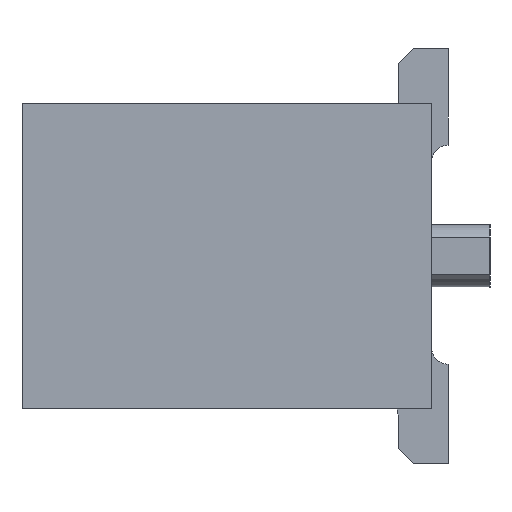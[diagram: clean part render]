
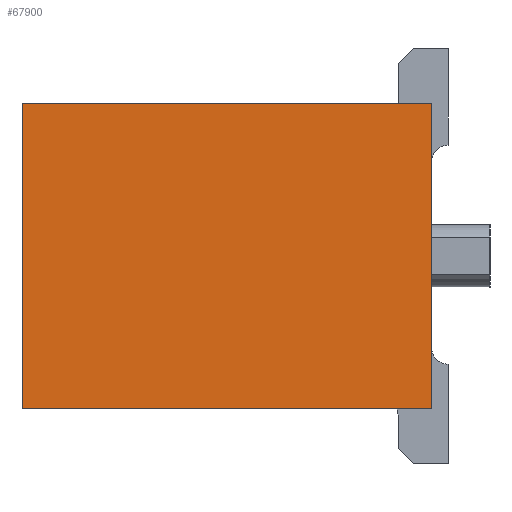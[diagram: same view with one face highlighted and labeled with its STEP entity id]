
A CAD part, left-side view. The second image highlights one B-rep face of the part: STEP entity #67900.
In plain terms, the highlighted planar face has unit normal (-1, 0, 0).
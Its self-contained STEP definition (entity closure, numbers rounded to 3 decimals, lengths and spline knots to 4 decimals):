
#1535 = EDGE_CURVE ( 'NONE', #72537, #42764, #54878, .T. ) ;
#1702 = EDGE_LOOP ( 'NONE', ( #72935, #74834, #81682, #74496 ) ) ;
#2790 = DIRECTION ( 'NONE',  ( 0., -1., 0. ) ) ;
#3168 = CARTESIAN_POINT ( 'NONE',  ( -2.0012, 2.6424, 1.825 ) ) ;
#3215 = LINE ( 'NONE', #22264, #20956 ) ;
#8322 = VECTOR ( 'NONE', #32450, 1000. ) ;
#10366 = DIRECTION ( 'NONE',  ( 1., 0., 0. ) ) ;
#20956 = VECTOR ( 'NONE', #2790, 1000. ) ;
#21665 = CARTESIAN_POINT ( 'NONE',  ( -2.0012, -2.2576, 1.825 ) ) ;
#21693 = CARTESIAN_POINT ( 'NONE',  ( -2.0012, -2.2576, 1.825 ) ) ;
#22211 = FACE_OUTER_BOUND ( 'NONE', #1702, .T. ) ;
#22264 = CARTESIAN_POINT ( 'NONE',  ( -2.0012, 2.6424, -1.825 ) ) ;
#22682 = DIRECTION ( 'NONE',  ( 0., 0., -1. ) ) ;
#32450 = DIRECTION ( 'NONE',  ( 0., 0., -1. ) ) ;
#34956 = PLANE ( 'NONE',  #61418 ) ;
#41511 = VERTEX_POINT ( 'NONE', #67320 ) ;
#42764 = VERTEX_POINT ( 'NONE', #62665 ) ;
#44941 = EDGE_CURVE ( 'NONE', #42764, #41511, #3215, .T. ) ;
#45549 = VECTOR ( 'NONE', #22682, 1000. ) ;
#49382 = VERTEX_POINT ( 'NONE', #21665 ) ;
#54707 = EDGE_CURVE ( 'NONE', #72537, #49382, #73144, .T. ) ;
#54878 = LINE ( 'NONE', #80682, #45549 ) ;
#55249 = CARTESIAN_POINT ( 'NONE',  ( -2.0012, 2.6424, 1.825 ) ) ;
#61418 = AXIS2_PLACEMENT_3D ( 'NONE', #3168, #10366, #79793 ) ;
#62665 = CARTESIAN_POINT ( 'NONE',  ( -2.0012, 2.6424, -1.825 ) ) ;
#64615 = LINE ( 'NONE', #21693, #8322 ) ;
#67320 = CARTESIAN_POINT ( 'NONE',  ( -2.0012, -2.2576, -1.825 ) ) ;
#67900 = ADVANCED_FACE ( 'NONE', ( #22211 ), #34956, .F. ) ;
#72039 = VECTOR ( 'NONE', #72332, 1000. ) ;
#72332 = DIRECTION ( 'NONE',  ( 0., -1., 0. ) ) ;
#72537 = VERTEX_POINT ( 'NONE', #55249 ) ;
#72935 = ORIENTED_EDGE ( 'NONE', *, *, #44941, .T. ) ;
#73144 = LINE ( 'NONE', #79930, #72039 ) ;
#74496 = ORIENTED_EDGE ( 'NONE', *, *, #1535, .T. ) ;
#74834 = ORIENTED_EDGE ( 'NONE', *, *, #82838, .F. ) ;
#79793 = DIRECTION ( 'NONE',  ( 0., 1., 0. ) ) ;
#79930 = CARTESIAN_POINT ( 'NONE',  ( -2.0012, 2.6424, 1.825 ) ) ;
#80682 = CARTESIAN_POINT ( 'NONE',  ( -2.0012, 2.6424, 1.825 ) ) ;
#81682 = ORIENTED_EDGE ( 'NONE', *, *, #54707, .F. ) ;
#82838 = EDGE_CURVE ( 'NONE', #49382, #41511, #64615, .T. ) ;
